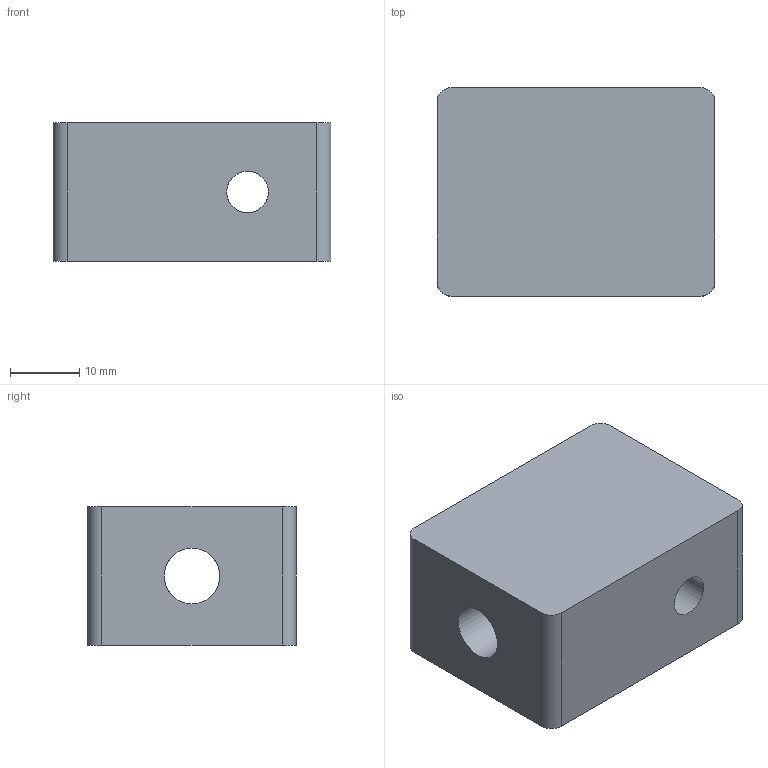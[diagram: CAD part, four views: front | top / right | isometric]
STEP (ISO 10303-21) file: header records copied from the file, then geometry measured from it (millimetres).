
FILE_DESCRIPTION(('Open CASCADE Model'),'2;1');
FILE_NAME('Open CASCADE Shape Model','2026-09-13T14:05:13',('Author'),( 'Open CASCADE'),'Open CASCADE STEP processor 7.8','Open CASCADE 7.8' ,'Unknown');
FILE_SCHEMA(('AUTOMOTIVE_DESIGN { 1 0 10303 214 1 1 1 1 }'));
Length unit declared in the file: millimetre
Products named in the file (1): Open CASCADE STEP translator 7.8 1
Bounding box: 40 x 30 x 20 mm (x, y, z)
Volume: 21281.4 mm3; surface area: 6349.9 mm2
Topology: 1 solids, 1 shells, 13 faces, 35 edges, 23 vertices
Faces by surface type: cylinder 7, plane 6
Full cylindrical faces by diameter (mm): 6 x2, 8 x1
Entity records: 1559 total; most frequent: CARTESIAN_POINT 847, DIRECTION 130, LINE 72, VECTOR 72, ORIENTED_EDGE 70, PCURVE 70, DEFINITIONAL_REPRESENTATION 70, EDGE_CURVE 35
